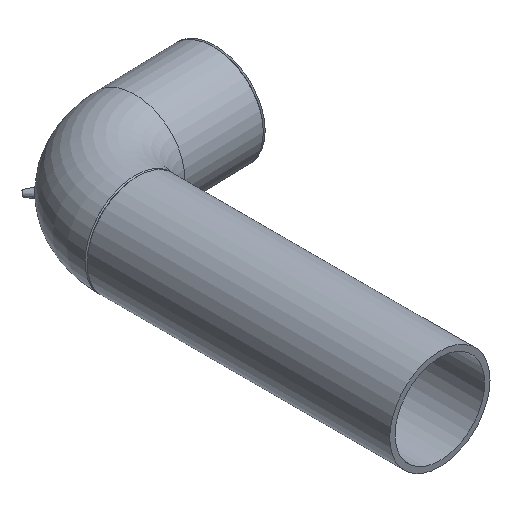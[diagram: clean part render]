
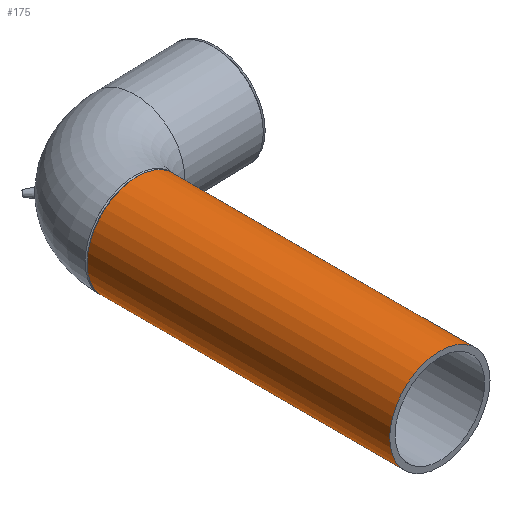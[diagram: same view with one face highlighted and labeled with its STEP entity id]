
A CAD part, isometric view. The second image highlights one B-rep face of the part: STEP entity #175.
In plain terms, the highlighted cylindrical face has radius 28 mm (diameter 56 mm), a full revolution.
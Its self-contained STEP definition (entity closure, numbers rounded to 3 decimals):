
#23=CYLINDRICAL_SURFACE($,#206,28.);
#36=FACE_BOUND($,#79,.T.);
#53=FACE_OUTER_BOUND($,#78,.T.);
#78=EDGE_LOOP($,(#152));
#79=EDGE_LOOP($,(#153));
#88=CIRCLE($,#188,28.);
#97=CIRCLE($,#207,28.);
#102=VERTEX_POINT($,#282);
#112=VERTEX_POINT($,#351);
#117=EDGE_CURVE($,#102,#102,#88,.T.);
#127=EDGE_CURVE($,#112,#112,#97,.T.);
#152=ORIENTED_EDGE($,*,*,#117,.T.);
#153=ORIENTED_EDGE($,*,*,#127,.F.);
#175=ADVANCED_FACE($,(#53,#36),#23,.T.);
#188=AXIS2_PLACEMENT_3D($,#283,#226,#227);
#206=AXIS2_PLACEMENT_3D($,#350,#262,#263);
#207=AXIS2_PLACEMENT_3D($,#352,#264,#265);
#226=DIRECTION('center_axis',(0.,-1.,0.));
#227=DIRECTION('ref_axis',(1.,0.,0.));
#262=DIRECTION('center_axis',(0.,1.,0.));
#263=DIRECTION('ref_axis',(1.,0.,0.));
#264=DIRECTION('center_axis',(0.,-1.,0.));
#265=DIRECTION('ref_axis',(1.,0.,0.));
#282=CARTESIAN_POINT('',(-28.,168.88,0.));
#283=CARTESIAN_POINT('Origin',(0.,168.88,0.));
#350=CARTESIAN_POINT('Origin',(0.,0.,0.));
#351=CARTESIAN_POINT('',(-28.,0.,0.));
#352=CARTESIAN_POINT('Origin',(0.,0.,0.));
